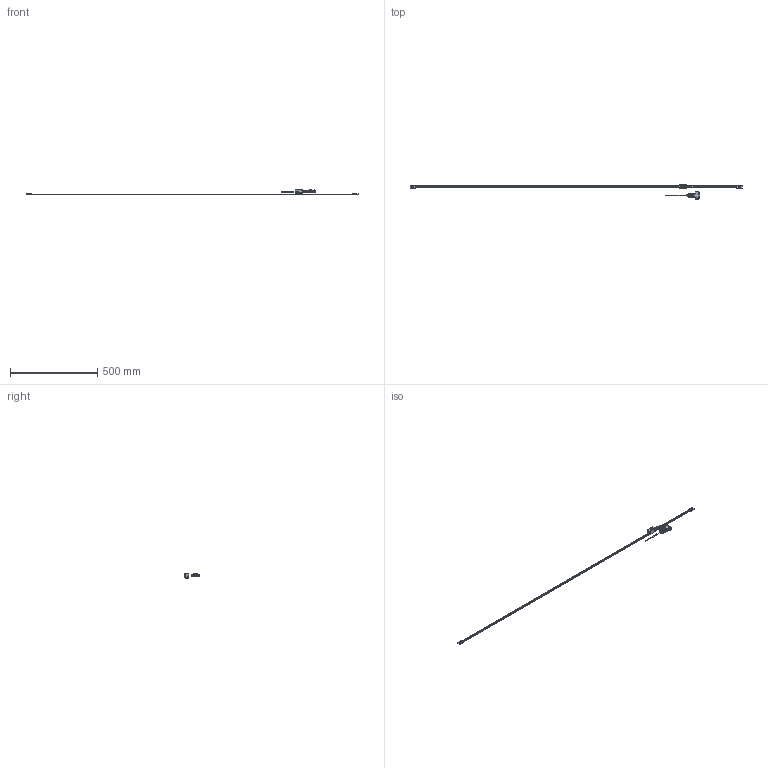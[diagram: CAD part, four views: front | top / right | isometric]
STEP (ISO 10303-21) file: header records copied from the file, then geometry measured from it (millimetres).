
FILE_DESCRIPTION(('Creo Elements/Direct Modeling STEP Export'),'2;1');
FILE_NAME('ST1300-1800E.stp','2018-02-27T11:52:41',(''),(''),'Creo Elements/Direct Modeling STEP processor for AP214 (Solid Model)','Creo Elements/Direct Modeling 18.1B 29-Sep-2012 (C) Parametric Technology GmbH','');
FILE_SCHEMA(('AUTOMOTIVE_DESIGN { 1 0 10303 214 1 1 1 1 }'));
Products named in the file (4): Connector; DetectorHead; Scale_1800; ST1300-1800E
Assembly tree (3 placements, depth 2):
  ST1300-1800E
    Scale_1800
    DetectorHead
    Connector
Bounding box: 1900 x 83 x 25.45 mm (x, y, z)
Volume: 31246 mm3; surface area: 68861.2 mm2
Topology: 2 solids, 6 shells, 3203 faces, 8994 edges, 5961 vertices
Faces by surface type: plane 1571, cylinder 1460, cone 83, extrusion 36, torus 26, bspline 23, revolution 4
Entity records: 108676 total; most frequent: CARTESIAN_POINT 24043, ORIENTED_EDGE 17972, DIRECTION 17522, EDGE_CURVE 8982, AXIS2_PLACEMENT_3D 5964, VERTEX_POINT 5961, VECTOR 5588, LINE 5572
